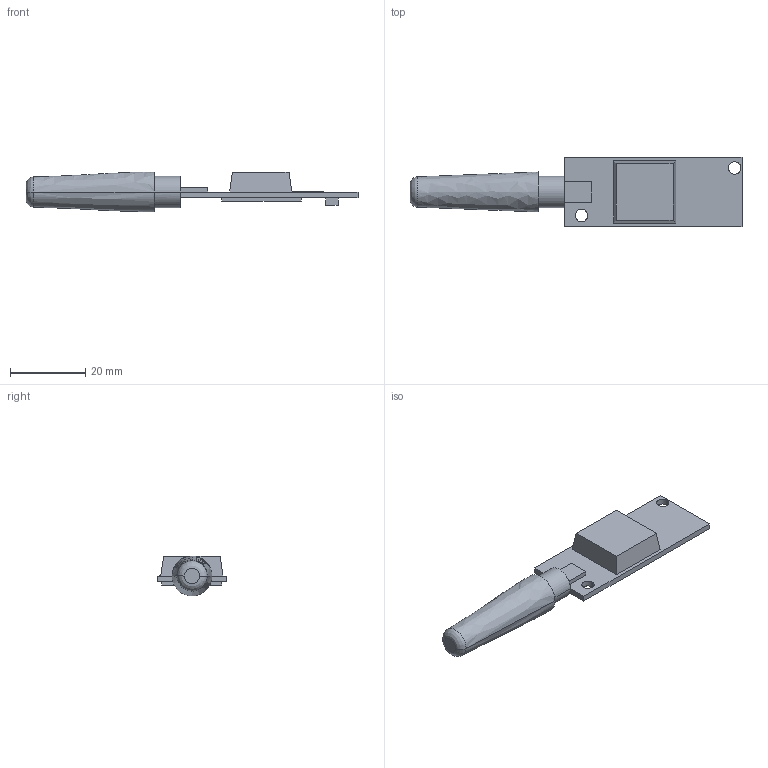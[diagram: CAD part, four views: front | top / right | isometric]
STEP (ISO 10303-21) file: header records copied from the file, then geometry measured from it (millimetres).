
FILE_DESCRIPTION(/* description */ (''),/* implementation_level */ '2;1');
FILE_NAME(/* name */ 'mini gps',/* time_stamp */ '2021-08-20T00:13:32-07:00',/* author */ (''),/* organization */ (''),/* preprocessor_version */ 'ST-DEVELOPER v16.5',/* originating_system */ '',/* authorisation */ '');
FILE_SCHEMA (('CONFIG_CONTROL_DESIGN'));
Length unit declared in the file: millimetre
Products named in the file (1): Document
Bounding box: 88 x 18.45 x 10.6 mm (x, y, z)
Volume: 5677.3 mm3; surface area: 3608.2 mm2
Topology: 1 solids, 1 shells, 40 faces, 94 edges, 60 vertices
Faces by surface type: plane 26, bspline 8, cylinder 6
Entity records: 1192 total; most frequent: CARTESIAN_POINT 461, ORIENTED_EDGE 188, EDGE_CURVE 94, B_SPLINE_CURVE_WITH_KNOTS 64, VERTEX_POINT 60, EDGE_LOOP 48, ADVANCED_FACE 40, FACE_OUTER_BOUND 40
